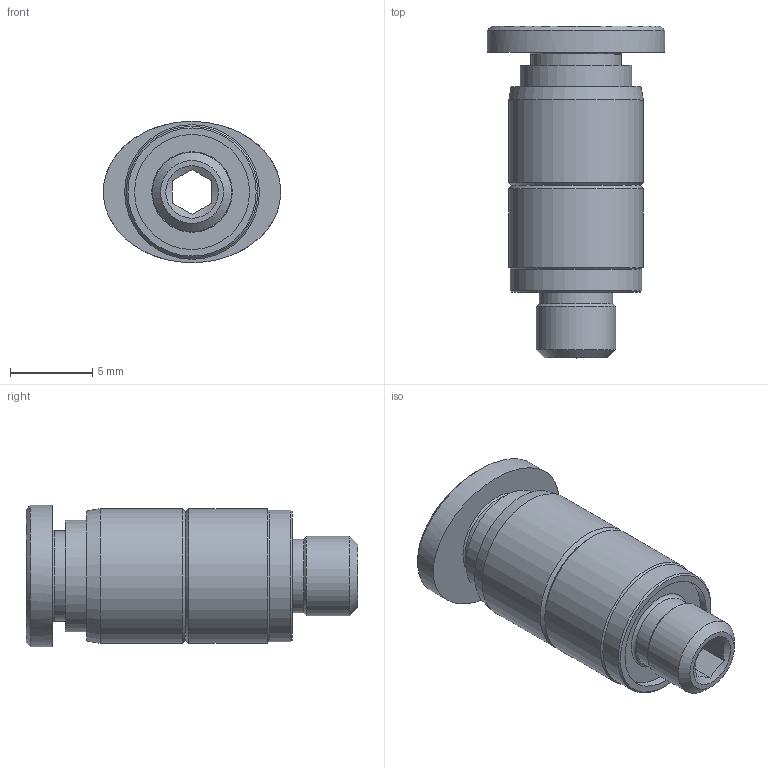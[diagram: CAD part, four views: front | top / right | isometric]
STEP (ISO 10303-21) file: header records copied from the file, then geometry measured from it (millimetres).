
FILE_DESCRIPTION((''),'2;1');
FILE_NAME('C:\Users\user0117\Desktop\김진일\G-FITTING INCH\5-32\PDF\G-FITTING INCH (STEP)\GPOC 5_32-U10U.stp','2020-04-20T14:23:07',('user0117'),(''),'Autodesk Inventor 2013','Autodesk Inventor 2013','');
FILE_SCHEMA(('AUTOMOTIVE_DESIGN { 1 0 10303 214 1 1 1 1 }'));
Length unit declared in the file: millimetre
Products named in the file (5): GPOC 5_32-U10U; GPOC BODY 5_32-U10U(BRASS); G-COLLAR 5-32C; COLLAR G04C; SLEEVE G04
Assembly tree (4 placements, depth 3):
  GPOC 5_32-U10U
    GPOC BODY 5_32-U10U(BRASS)
    G-COLLAR 5-32C
      COLLAR G04C
      SLEEVE G04
Bounding box: 10.79 x 20.2 x 8.6 mm (x, y, z)
Volume: 662.6 mm3; surface area: 982.9 mm2
Topology: 3 solids, 3 shells, 187 faces, 487 edges, 324 vertices
Faces by surface type: plane 106, bspline 59, cylinder 11, cone 10, torus 1
Full cylindrical faces by diameter (mm): 4.2 x3, 4.5 x1, 4.826 x1, 5.5 x1, 6.8 x1, 7 x1, 8 x1, 8.2 x2
Entity records: 6205 total; most frequent: CARTESIAN_POINT 2001, ORIENTED_EDGE 914, DIRECTION 633, EDGE_CURVE 457, VERTEX_POINT 317, VECTOR 297, LINE 297, EDGE_LOOP 234
